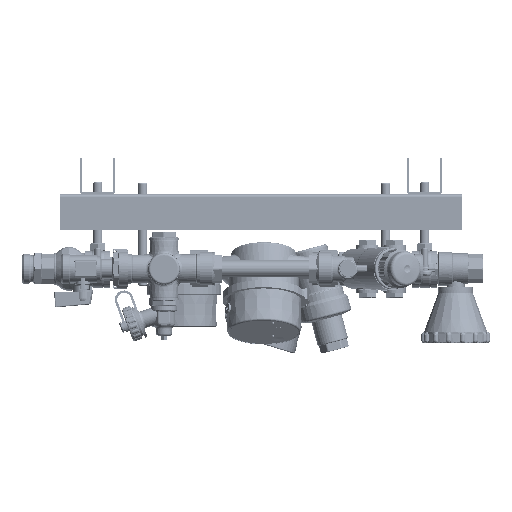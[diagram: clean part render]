
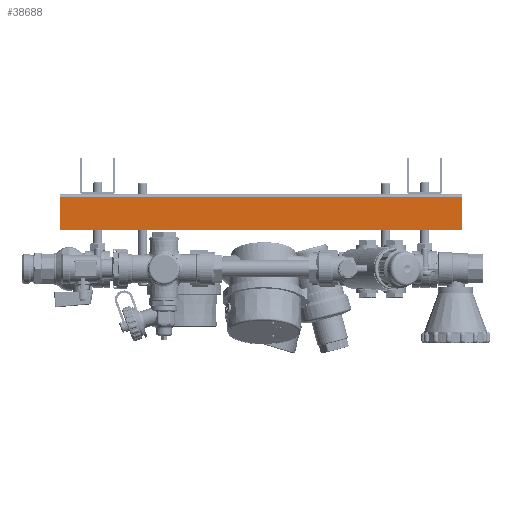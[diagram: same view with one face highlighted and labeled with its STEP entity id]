
A CAD part, left-side view. The second image highlights one B-rep face of the part: STEP entity #38688.
In plain terms, the highlighted planar face has unit normal (-1, 0, 0).
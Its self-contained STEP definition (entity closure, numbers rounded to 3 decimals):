
#38688=ADVANCED_FACE('',(#212842),#212844,.T.);
#212842=FACE_BOUND('',#212843,.T.);
#212843=EDGE_LOOP('',(#315332,#315333,#315334,#315335));
#212844=PLANE('',#212845);
#212845=AXIS2_PLACEMENT_3D('',#212846,#212847,#212848);
#212846=CARTESIAN_POINT('',(-15.5,-350.,-31.2));
#212847=DIRECTION('',(-1.,0.,0.));
#212848=DIRECTION('',(0.,0.,1.));
#315332=ORIENTED_EDGE('',*,*,#367543,.T.);
#315333=ORIENTED_EDGE('',*,*,#367566,.T.);
#315334=ORIENTED_EDGE('',*,*,#367555,.F.);
#315335=ORIENTED_EDGE('',*,*,#367569,.F.);
#367543=EDGE_CURVE('',#434504,#434502,#434505,.T.);
#367555=EDGE_CURVE('',#434523,#434525,#434526,.T.);
#367566=EDGE_CURVE('',#434502,#434525,#434539,.T.);
#367569=EDGE_CURVE('',#434504,#434523,#434542,.T.);
#434502=VERTEX_POINT('',#729050);
#434504=VERTEX_POINT('',#729055);
#434505=LINE('',#729056,#729057);
#434523=VERTEX_POINT('',#729100);
#434525=VERTEX_POINT('',#729104);
#434526=LINE('',#729105,#729106);
#434539=LINE('',#729142,#729143);
#434542=LINE('',#729151,#729152);
#729050=CARTESIAN_POINT('',(-15.5,-350.,-2.5));
#729055=CARTESIAN_POINT('',(-15.5,-350.,-31.2));
#729056=CARTESIAN_POINT('',(-15.5,-350.,-31.2));
#729057=VECTOR('',#729058,1.);
#729058=DIRECTION('',(0.,0.,1.));
#729100=CARTESIAN_POINT('',(-15.5,0.,-31.2));
#729104=CARTESIAN_POINT('',(-15.5,0.,-2.5));
#729105=CARTESIAN_POINT('',(-15.5,0.,-31.2));
#729106=VECTOR('',#729107,1.);
#729107=DIRECTION('',(0.,0.,1.));
#729142=CARTESIAN_POINT('',(-15.5,-350.,-2.5));
#729143=VECTOR('',#729144,1.);
#729144=DIRECTION('',(0.,1.,0.));
#729151=CARTESIAN_POINT('',(-15.5,-350.,-31.2));
#729152=VECTOR('',#729153,1.);
#729153=DIRECTION('',(0.,1.,0.));
